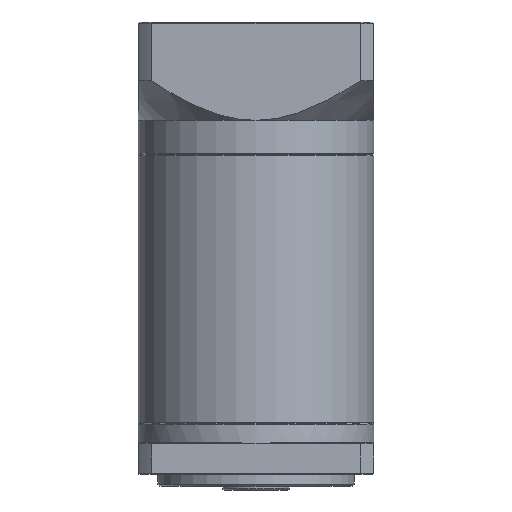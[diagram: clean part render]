
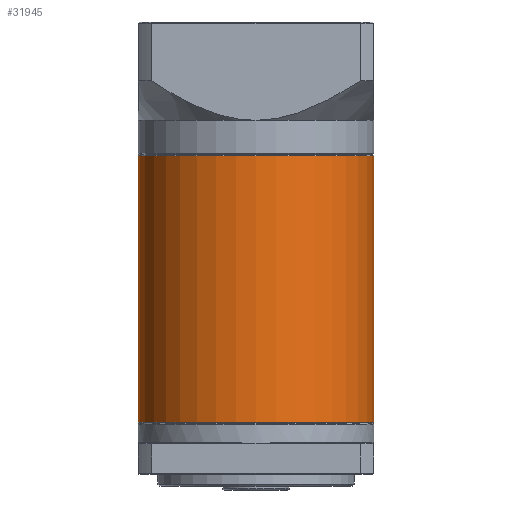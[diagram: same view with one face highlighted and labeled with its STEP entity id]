
A CAD part, front view. The second image highlights one B-rep face of the part: STEP entity #31945.
In plain terms, the highlighted cylindrical face has radius 30 mm (diameter 60 mm), a partial arc.
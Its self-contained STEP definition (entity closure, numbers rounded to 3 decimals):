
#443 = DIRECTION ( 'NONE',  ( -1., 0., 0. ) ) ;
#1716 = EDGE_CURVE ( 'NONE', #17109, #7455, #3014, .T. ) ;
#3014 = LINE ( 'NONE', #77482, #55826 ) ;
#4182 = CARTESIAN_POINT ( 'NONE',  ( -87.838, 40.689, -72.371 ) ) ;
#7455 = VERTEX_POINT ( 'NONE', #80315 ) ;
#8264 = DIRECTION ( 'NONE',  ( 0., 0., 1. ) ) ;
#12316 = DIRECTION ( 'NONE',  ( 0., 0., -1. ) ) ;
#14320 = AXIS2_PLACEMENT_3D ( 'NONE', #48411, #62181, #443 ) ;
#16508 = EDGE_CURVE ( 'NONE', #64253, #50392, #52210, .T. ) ;
#17085 = FACE_OUTER_BOUND ( 'NONE', #38900, .T. ) ;
#17109 = VERTEX_POINT ( 'NONE', #22080 ) ;
#22080 = CARTESIAN_POINT ( 'NONE',  ( -27.838, 40.689, -4.571 ) ) ;
#22641 = ORIENTED_EDGE ( 'NONE', *, *, #37684, .T. ) ;
#31945 = ADVANCED_FACE ( 'NONE', ( #17085 ), #42854, .T. ) ;
#37684 = EDGE_CURVE ( 'NONE', #50392, #7455, #42511, .T. ) ;
#38900 = EDGE_LOOP ( 'NONE', ( #65515, #70354, #80891, #22641 ) ) ;
#39207 = EDGE_CURVE ( 'NONE', #17109, #64253, #61529, .T. ) ;
#41756 = CARTESIAN_POINT ( 'NONE',  ( -87.838, 40.689, -4.321 ) ) ;
#42223 = AXIS2_PLACEMENT_3D ( 'NONE', #49550, #8264, #56463 ) ;
#42511 = CIRCLE ( 'NONE', #42223, 30. ) ;
#42854 = CYLINDRICAL_SURFACE ( 'NONE', #14320, 30. ) ;
#43506 = DIRECTION ( 'NONE',  ( 0., 0., -1. ) ) ;
#48411 = CARTESIAN_POINT ( 'NONE',  ( -57.838, 40.689, -4.321 ) ) ;
#49550 = CARTESIAN_POINT ( 'NONE',  ( -57.838, 40.689, -72.371 ) ) ;
#50392 = VERTEX_POINT ( 'NONE', #4182 ) ;
#51122 = CARTESIAN_POINT ( 'NONE',  ( -87.838, 40.689, -4.571 ) ) ;
#52210 = LINE ( 'NONE', #41756, #88768 ) ;
#53590 = CARTESIAN_POINT ( 'NONE',  ( -57.838, 40.689, -4.571 ) ) ;
#55826 = VECTOR ( 'NONE', #43506, 1000. ) ;
#56463 = DIRECTION ( 'NONE',  ( 1., 0., 0. ) ) ;
#60456 = DIRECTION ( 'NONE',  ( 1., 0., 0. ) ) ;
#61529 = CIRCLE ( 'NONE', #86827, 30. ) ;
#62181 = DIRECTION ( 'NONE',  ( 0., 0., -1. ) ) ;
#64253 = VERTEX_POINT ( 'NONE', #51122 ) ;
#65515 = ORIENTED_EDGE ( 'NONE', *, *, #1716, .F. ) ;
#70354 = ORIENTED_EDGE ( 'NONE', *, *, #39207, .T. ) ;
#75510 = DIRECTION ( 'NONE',  ( 0., 0., -1. ) ) ;
#77482 = CARTESIAN_POINT ( 'NONE',  ( -27.838, 40.689, -4.321 ) ) ;
#80315 = CARTESIAN_POINT ( 'NONE',  ( -27.838, 40.689, -72.371 ) ) ;
#80891 = ORIENTED_EDGE ( 'NONE', *, *, #16508, .T. ) ;
#86827 = AXIS2_PLACEMENT_3D ( 'NONE', #53590, #12316, #60456 ) ;
#88768 = VECTOR ( 'NONE', #75510, 1000. ) ;
